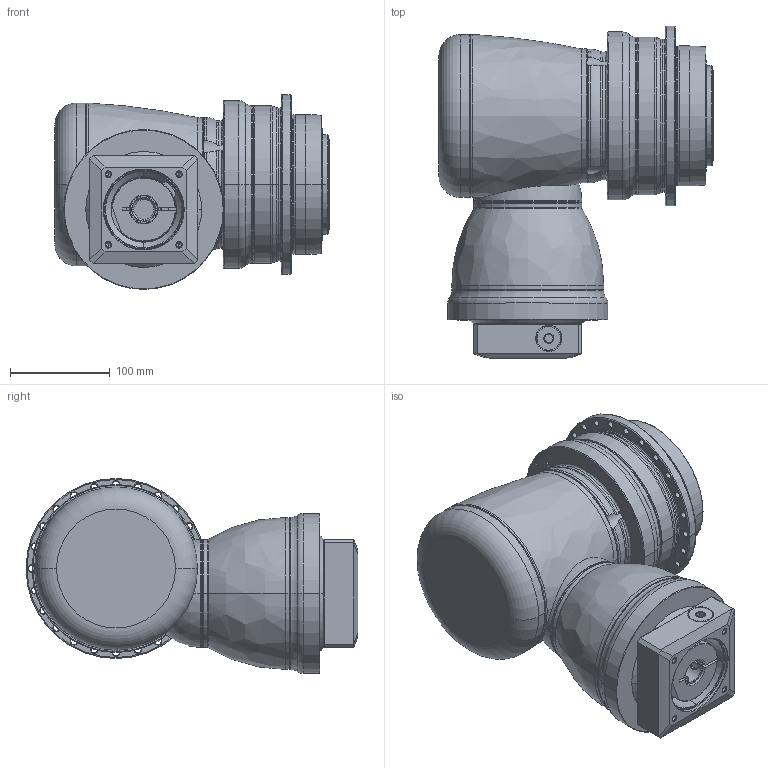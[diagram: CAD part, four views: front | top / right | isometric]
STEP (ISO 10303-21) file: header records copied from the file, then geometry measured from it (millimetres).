
FILE_DESCRIPTION((''),'2;1');
FILE_NAME('APK140_2ST_24-P0409510201_ASM','2018-05-18T',('D00080'),(''),'PRO/ENGINEER BY PARAMETRIC TECHNOLOGY CORPORATION, 2008170','PRO/ENGINEER BY PARAMETRIC TECHNOLOGY CORPORATION, 2008170','');
FILE_SCHEMA(('CONFIG_CONTROL_DESIGN'));
Length unit declared in the file: millimetre
Products named in the file (13): P1008500002; P1802510011; P0278501003; P0359501103; P1211500001; P1315500001; P1007501001; P1318501001; P0503500010; P0912550001; P0409510201; 21711418017; APK140_2ST_24-P0409510201_ASM
Assembly tree (12 placements, depth 2):
  APK140_2ST_24-P0409510201_ASM
    P1008500002
    P1802510011
    P0278501003
    P0359501103
    P1211500001
    P1315500001
    P1007501001
    P1318501001
    P0503500010
    P0912550001
    P0409510201
    21711418017
Bounding box: 274.5 x 332 x 195 mm (x, y, z)
Volume: 7208144 mm3; surface area: 649924.2 mm2
Topology: 13 solids, 38 shells, 846 faces, 1951 edges, 1191 vertices
Faces by surface type: cylinder 354, cone 231, plane 144, torus 96, bspline 19, sphere 2
Entity records: 29942 total; most frequent: CARTESIAN_POINT 10051, DIRECTION 4558, ORIENTED_EDGE 3712, AXIS2_PLACEMENT_3D 1952, EDGE_CURVE 1907, VERTEX_POINT 1191, CIRCLE 1090, EDGE_LOOP 1014
